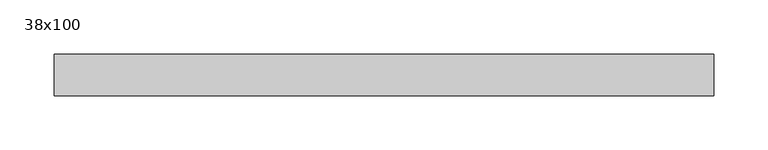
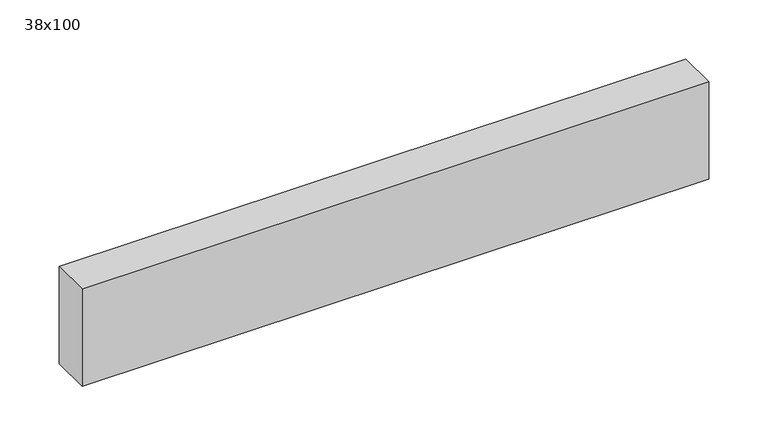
"""IFC4 building model written with IfcOpenShell, lengths in millimetres: beam geometry, Poutre - Bois de construction de dimensions courantes : 38x100."""

from ifc_helpers import new_model, si_unit, frame, origin, place, context, project, spatial, polyline, outline, extrude, source, transform, mapped, element, save


def beam_38x100_54759396(model_context):
    return source(origin(), model_context, "Body", "SweptSolid", [
        extrude(outline(polyline([(304.0, 19.05), (304.0, -19.05), (-304.0, -19.05), (-304.0, 19.05), (304.0, 19.05)])), frame((0.0, 0.0, -50.0), z_axis=(0.0, 0.0, 1.0), x_axis=(1.0, 0.0, 0.0)), (0.0, 0.0, 1.0), 100.0),
    ])


if __name__ == "__main__":
    model = new_model("IFC4")
    model_context = context("Model", 3, world=origin())
    ifc_project = project(units=[si_unit("LENGTHUNIT", "METRE", prefix="MILLI")], contexts=[model_context])
    site = spatial("IfcSite", under=ifc_project)
    building = spatial("IfcBuilding", under=site)
    placement = place(None, origin())
    beam_38x100_shape = beam_38x100_54759396(model_context)
    element("IfcBeam", 1, ObjectType="Poutre - Bois de construction de dimensions courantes : 38x100", at=placement, inside=building, context=model_context, shape_type="MappedRepresentation", body=[
        mapped(beam_38x100_shape, transform((0.0, 0.0, 0.0), x_axis=(1.0, 0.0, 0.0), y_axis=(0.0, 1.0, 0.0), z_axis=(0.0, 0.0, 1.0))),
    ])
    save(model, "model.ifc")
